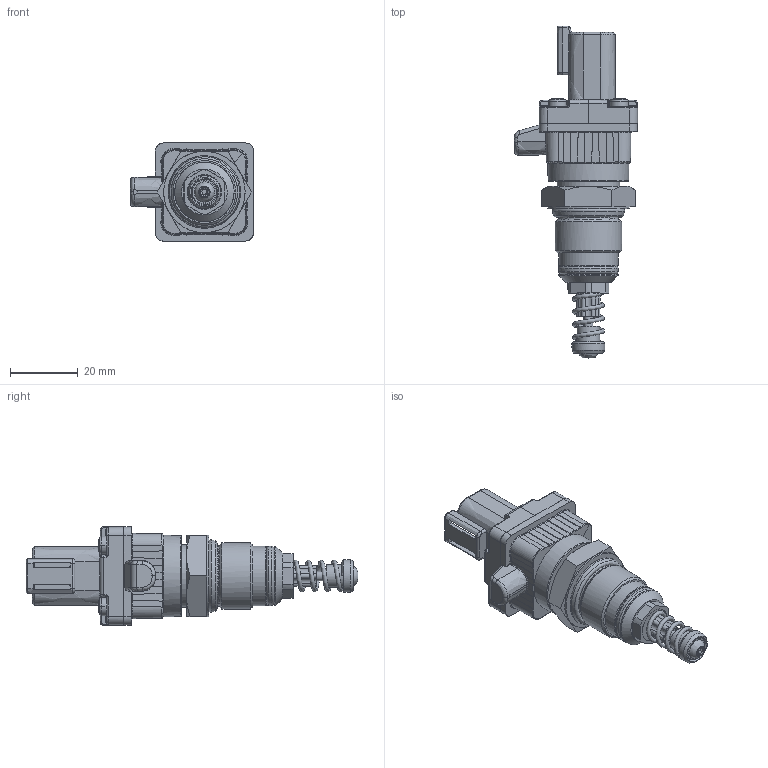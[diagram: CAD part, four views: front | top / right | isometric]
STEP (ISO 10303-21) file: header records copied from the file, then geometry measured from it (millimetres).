
FILE_DESCRIPTION((''),'2;1');
FILE_NAME('U:\Users\r.stiegele\30016300_DG060-20.stp', '2015-07-23T15:44:03',('User'),('SDRC'),'I-DEAS Master Series 9','UNIX', 'Yes');
FILE_SCHEMA(('AUTOMOTIVE_DESIGN { 1 0 10303 214 1 1 1 1 }'));
Length unit declared in the file: millimetre
Products named in the file (1): 30016300_DG060-20
Bounding box: 36.3 x 97.86 x 29 mm (x, y, z)
Volume: 27335.4 mm3; surface area: 11602.2 mm2
Topology: 1 solids, 9 shells, 1502 faces, 3914 edges, 2520 vertices
Faces by surface type: bspline 1502
Entity records: 62973 total; most frequent: CARTESIAN_POINT 40011, ORIENTED_EDGE 7802, EDGE_CURVE 3901, VERTEX_POINT 2516, B_SPLINE_CURVE_WITH_KNOTS 1747, EDGE_LOOP 1615, FACE_OUTER_BOUND 1502, ADVANCED_FACE 1502
